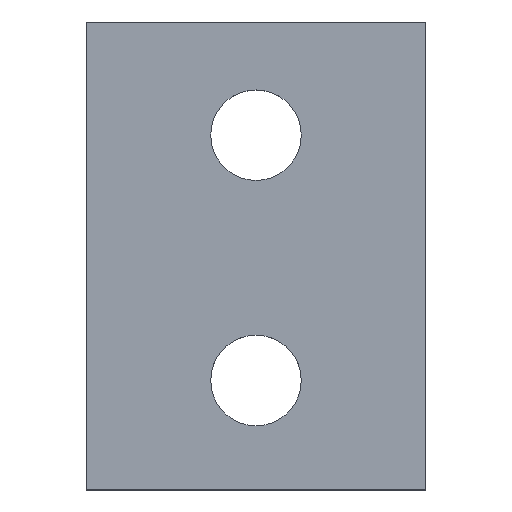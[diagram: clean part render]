
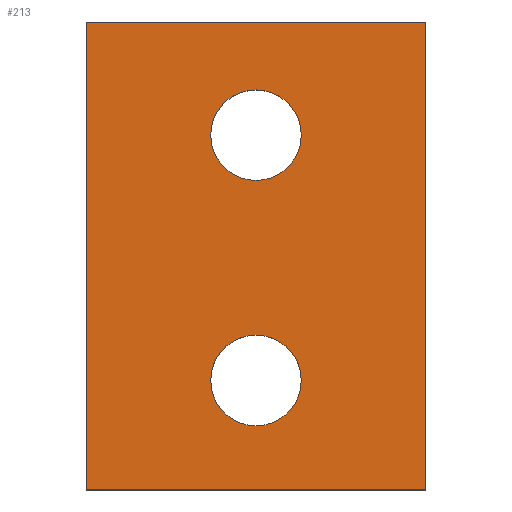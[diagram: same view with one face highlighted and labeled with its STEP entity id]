
A CAD part, top view. The second image highlights one B-rep face of the part: STEP entity #213.
In plain terms, the highlighted planar face has unit normal (0, 0, 1).
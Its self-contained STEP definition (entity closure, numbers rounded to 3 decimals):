
#24 = VERTEX_POINT('',#25);
#25 = CARTESIAN_POINT('',(24.329,57.8,20.05));
#32 = PLANE('',#33);
#33 = AXIS2_PLACEMENT_3D('',#34,#35,#36);
#34 = CARTESIAN_POINT('',(24.329,57.8,18.45));
#35 = DIRECTION('',(-1.,-0.,0.));
#36 = DIRECTION('',(0.,0.,-1.));
#44 = PLANE('',#45);
#45 = AXIS2_PLACEMENT_3D('',#46,#47,#48);
#46 = CARTESIAN_POINT('',(24.329,57.8,18.45));
#47 = DIRECTION('',(-0.,1.,0.));
#48 = DIRECTION('',(0.,0.,-1.));
#85 = VERTEX_POINT('',#86);
#86 = CARTESIAN_POINT('',(24.329,70.2,20.05));
#100 = PLANE('',#101);
#101 = AXIS2_PLACEMENT_3D('',#102,#103,#104);
#102 = CARTESIAN_POINT('',(24.329,70.2,18.45));
#103 = DIRECTION('',(-0.,1.,0.));
#104 = DIRECTION('',(0.,0.,-1.));
#112 = EDGE_CURVE('',#24,#85,#113,.T.);
#113 = SURFACE_CURVE('',#114,(#118,#125),.PCURVE_S1.);
#114 = LINE('',#115,#116);
#115 = CARTESIAN_POINT('',(24.329,57.8,20.05));
#116 = VECTOR('',#117,1.);
#117 = DIRECTION('',(-0.,1.,0.));
#118 = PCURVE('',#32,#119);
#119 = DEFINITIONAL_REPRESENTATION('',(#120),#124);
#120 = LINE('',#121,#122);
#121 = CARTESIAN_POINT('',(-1.6,-0.));
#122 = VECTOR('',#123,1.);
#123 = DIRECTION('',(-0.,-1.));
#124 = ( GEOMETRIC_REPRESENTATION_CONTEXT(2) 
PARAMETRIC_REPRESENTATION_CONTEXT() REPRESENTATION_CONTEXT('2D SPACE',''
  ) );
#125 = PCURVE('',#126,#131);
#126 = PLANE('',#127);
#127 = AXIS2_PLACEMENT_3D('',#128,#129,#130);
#128 = CARTESIAN_POINT('',(24.329,57.8,20.05));
#129 = DIRECTION('',(0.,0.,1.));
#130 = DIRECTION('',(1.,0.,0.));
#131 = DEFINITIONAL_REPRESENTATION('',(#132),#136);
#132 = LINE('',#133,#134);
#133 = CARTESIAN_POINT('',(0.,-0.));
#134 = VECTOR('',#135,1.);
#135 = DIRECTION('',(-0.,1.));
#136 = ( GEOMETRIC_REPRESENTATION_CONTEXT(2) 
PARAMETRIC_REPRESENTATION_CONTEXT() REPRESENTATION_CONTEXT('2D SPACE',''
  ) );
#165 = EDGE_CURVE('',#24,#166,#168,.T.);
#166 = VERTEX_POINT('',#167);
#167 = CARTESIAN_POINT('',(15.329,57.8,20.05));
#168 = SURFACE_CURVE('',#169,(#173,#180),.PCURVE_S1.);
#169 = LINE('',#170,#171);
#170 = CARTESIAN_POINT('',(24.329,57.8,20.05));
#171 = VECTOR('',#172,1.);
#172 = DIRECTION('',(-1.,-0.,0.));
#173 = PCURVE('',#44,#174);
#174 = DEFINITIONAL_REPRESENTATION('',(#175),#179);
#175 = LINE('',#176,#177);
#176 = CARTESIAN_POINT('',(-1.6,-0.));
#177 = VECTOR('',#178,1.);
#178 = DIRECTION('',(-0.,1.));
#179 = ( GEOMETRIC_REPRESENTATION_CONTEXT(2) 
PARAMETRIC_REPRESENTATION_CONTEXT() REPRESENTATION_CONTEXT('2D SPACE',''
  ) );
#180 = PCURVE('',#126,#181);
#181 = DEFINITIONAL_REPRESENTATION('',(#182),#186);
#182 = LINE('',#183,#184);
#183 = CARTESIAN_POINT('',(0.,-0.));
#184 = VECTOR('',#185,1.);
#185 = DIRECTION('',(-1.,0.));
#186 = ( GEOMETRIC_REPRESENTATION_CONTEXT(2) 
PARAMETRIC_REPRESENTATION_CONTEXT() REPRESENTATION_CONTEXT('2D SPACE',''
  ) );
#202 = PLANE('',#203);
#203 = AXIS2_PLACEMENT_3D('',#204,#205,#206);
#204 = CARTESIAN_POINT('',(15.329,57.8,18.45));
#205 = DIRECTION('',(-1.,-0.,0.));
#206 = DIRECTION('',(0.,0.,-1.));
#213 = ADVANCED_FACE('',(#214,#262,#297),#126,.T.);
#214 = FACE_BOUND('',#215,.F.);
#215 = EDGE_LOOP('',(#216,#217,#218,#241));
#216 = ORIENTED_EDGE('',*,*,#112,.F.);
#217 = ORIENTED_EDGE('',*,*,#165,.T.);
#218 = ORIENTED_EDGE('',*,*,#219,.T.);
#219 = EDGE_CURVE('',#166,#220,#222,.T.);
#220 = VERTEX_POINT('',#221);
#221 = CARTESIAN_POINT('',(15.329,70.2,20.05));
#222 = SURFACE_CURVE('',#223,(#227,#234),.PCURVE_S1.);
#223 = LINE('',#224,#225);
#224 = CARTESIAN_POINT('',(15.329,57.8,20.05));
#225 = VECTOR('',#226,1.);
#226 = DIRECTION('',(-0.,1.,0.));
#227 = PCURVE('',#126,#228);
#228 = DEFINITIONAL_REPRESENTATION('',(#229),#233);
#229 = LINE('',#230,#231);
#230 = CARTESIAN_POINT('',(-9.,0.));
#231 = VECTOR('',#232,1.);
#232 = DIRECTION('',(-0.,1.));
#233 = ( GEOMETRIC_REPRESENTATION_CONTEXT(2) 
PARAMETRIC_REPRESENTATION_CONTEXT() REPRESENTATION_CONTEXT('2D SPACE',''
  ) );
#234 = PCURVE('',#202,#235);
#235 = DEFINITIONAL_REPRESENTATION('',(#236),#240);
#236 = LINE('',#237,#238);
#237 = CARTESIAN_POINT('',(-1.6,-0.));
#238 = VECTOR('',#239,1.);
#239 = DIRECTION('',(-0.,-1.));
#240 = ( GEOMETRIC_REPRESENTATION_CONTEXT(2) 
PARAMETRIC_REPRESENTATION_CONTEXT() REPRESENTATION_CONTEXT('2D SPACE',''
  ) );
#241 = ORIENTED_EDGE('',*,*,#242,.F.);
#242 = EDGE_CURVE('',#85,#220,#243,.T.);
#243 = SURFACE_CURVE('',#244,(#248,#255),.PCURVE_S1.);
#244 = LINE('',#245,#246);
#245 = CARTESIAN_POINT('',(24.329,70.2,20.05));
#246 = VECTOR('',#247,1.);
#247 = DIRECTION('',(-1.,-0.,0.));
#248 = PCURVE('',#126,#249);
#249 = DEFINITIONAL_REPRESENTATION('',(#250),#254);
#250 = LINE('',#251,#252);
#251 = CARTESIAN_POINT('',(0.,12.4));
#252 = VECTOR('',#253,1.);
#253 = DIRECTION('',(-1.,0.));
#254 = ( GEOMETRIC_REPRESENTATION_CONTEXT(2) 
PARAMETRIC_REPRESENTATION_CONTEXT() REPRESENTATION_CONTEXT('2D SPACE',''
  ) );
#255 = PCURVE('',#100,#256);
#256 = DEFINITIONAL_REPRESENTATION('',(#257),#261);
#257 = LINE('',#258,#259);
#258 = CARTESIAN_POINT('',(-1.6,-0.));
#259 = VECTOR('',#260,1.);
#260 = DIRECTION('',(-0.,1.));
#261 = ( GEOMETRIC_REPRESENTATION_CONTEXT(2) 
PARAMETRIC_REPRESENTATION_CONTEXT() REPRESENTATION_CONTEXT('2D SPACE',''
  ) );
#262 = FACE_BOUND('',#263,.F.);
#263 = EDGE_LOOP('',(#264));
#264 = ORIENTED_EDGE('',*,*,#265,.F.);
#265 = EDGE_CURVE('',#266,#266,#268,.T.);
#266 = VERTEX_POINT('',#267);
#267 = CARTESIAN_POINT('',(18.629,60.7,20.05));
#268 = SURFACE_CURVE('',#269,(#274,#285),.PCURVE_S1.);
#269 = CIRCLE('',#270,1.2);
#270 = AXIS2_PLACEMENT_3D('',#271,#272,#273);
#271 = CARTESIAN_POINT('',(19.829,60.7,20.05));
#272 = DIRECTION('',(0.,0.,-1.));
#273 = DIRECTION('',(-1.,-0.,-0.));
#274 = PCURVE('',#126,#275);
#275 = DEFINITIONAL_REPRESENTATION('',(#276),#284);
#276 = ( BOUNDED_CURVE() B_SPLINE_CURVE(2,(#277,#278,#279,#280,#281,#282
,#283),.UNSPECIFIED.,.T.,.F.) B_SPLINE_CURVE_WITH_KNOTS((1,2,2,2,2,1),(
    -2.094,0.,2.094,4.189,6.283,
8.378),.UNSPECIFIED.) CURVE() GEOMETRIC_REPRESENTATION_ITEM() 
RATIONAL_B_SPLINE_CURVE((1.,0.5,1.,0.5,1.,0.5,1.)) REPRESENTATION_ITEM(
  '') );
#277 = CARTESIAN_POINT('',(-5.7,2.9));
#278 = CARTESIAN_POINT('',(-5.7,4.978));
#279 = CARTESIAN_POINT('',(-3.9,3.939));
#280 = CARTESIAN_POINT('',(-2.1,2.9));
#281 = CARTESIAN_POINT('',(-3.9,1.861));
#282 = CARTESIAN_POINT('',(-5.7,0.822));
#283 = CARTESIAN_POINT('',(-5.7,2.9));
#284 = ( GEOMETRIC_REPRESENTATION_CONTEXT(2) 
PARAMETRIC_REPRESENTATION_CONTEXT() REPRESENTATION_CONTEXT('2D SPACE',''
  ) );
#285 = PCURVE('',#286,#291);
#286 = CYLINDRICAL_SURFACE('',#287,1.2);
#287 = AXIS2_PLACEMENT_3D('',#288,#289,#290);
#288 = CARTESIAN_POINT('',(19.829,60.7,17.));
#289 = DIRECTION('',(-0.,-0.,1.));
#290 = DIRECTION('',(-1.,-0.,-0.));
#291 = DEFINITIONAL_REPRESENTATION('',(#292),#296);
#292 = LINE('',#293,#294);
#293 = CARTESIAN_POINT('',(-0.,3.05));
#294 = VECTOR('',#295,1.);
#295 = DIRECTION('',(-1.,0.));
#296 = ( GEOMETRIC_REPRESENTATION_CONTEXT(2) 
PARAMETRIC_REPRESENTATION_CONTEXT() REPRESENTATION_CONTEXT('2D SPACE',''
  ) );
#297 = FACE_BOUND('',#298,.F.);
#298 = EDGE_LOOP('',(#299));
#299 = ORIENTED_EDGE('',*,*,#300,.F.);
#300 = EDGE_CURVE('',#301,#301,#303,.T.);
#301 = VERTEX_POINT('',#302);
#302 = CARTESIAN_POINT('',(18.629,67.2,20.05));
#303 = SURFACE_CURVE('',#304,(#309,#320),.PCURVE_S1.);
#304 = CIRCLE('',#305,1.2);
#305 = AXIS2_PLACEMENT_3D('',#306,#307,#308);
#306 = CARTESIAN_POINT('',(19.829,67.2,20.05));
#307 = DIRECTION('',(0.,0.,-1.));
#308 = DIRECTION('',(-1.,-0.,-0.));
#309 = PCURVE('',#126,#310);
#310 = DEFINITIONAL_REPRESENTATION('',(#311),#319);
#311 = ( BOUNDED_CURVE() B_SPLINE_CURVE(2,(#312,#313,#314,#315,#316,#317
,#318),.UNSPECIFIED.,.T.,.F.) B_SPLINE_CURVE_WITH_KNOTS((1,2,2,2,2,1),(
    -2.094,0.,2.094,4.189,6.283,
8.378),.UNSPECIFIED.) CURVE() GEOMETRIC_REPRESENTATION_ITEM() 
RATIONAL_B_SPLINE_CURVE((1.,0.5,1.,0.5,1.,0.5,1.)) REPRESENTATION_ITEM(
  '') );
#312 = CARTESIAN_POINT('',(-5.7,9.4));
#313 = CARTESIAN_POINT('',(-5.7,11.478));
#314 = CARTESIAN_POINT('',(-3.9,10.439));
#315 = CARTESIAN_POINT('',(-2.1,9.4));
#316 = CARTESIAN_POINT('',(-3.9,8.361));
#317 = CARTESIAN_POINT('',(-5.7,7.322));
#318 = CARTESIAN_POINT('',(-5.7,9.4));
#319 = ( GEOMETRIC_REPRESENTATION_CONTEXT(2) 
PARAMETRIC_REPRESENTATION_CONTEXT() REPRESENTATION_CONTEXT('2D SPACE',''
  ) );
#320 = PCURVE('',#321,#326);
#321 = CYLINDRICAL_SURFACE('',#322,1.2);
#322 = AXIS2_PLACEMENT_3D('',#323,#324,#325);
#323 = CARTESIAN_POINT('',(19.829,67.2,17.));
#324 = DIRECTION('',(-0.,-0.,1.));
#325 = DIRECTION('',(-1.,-0.,-0.));
#326 = DEFINITIONAL_REPRESENTATION('',(#327),#331);
#327 = LINE('',#328,#329);
#328 = CARTESIAN_POINT('',(-0.,3.05));
#329 = VECTOR('',#330,1.);
#330 = DIRECTION('',(-1.,0.));
#331 = ( GEOMETRIC_REPRESENTATION_CONTEXT(2) 
PARAMETRIC_REPRESENTATION_CONTEXT() REPRESENTATION_CONTEXT('2D SPACE',''
  ) );
